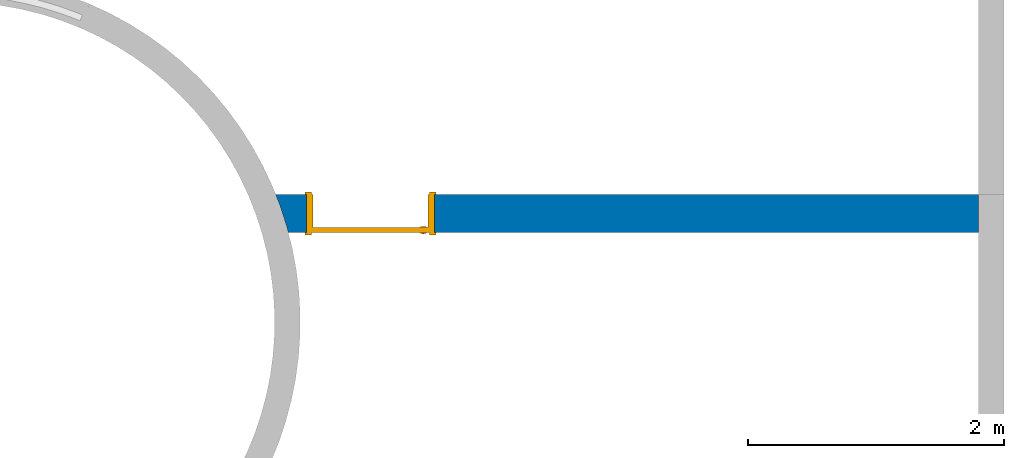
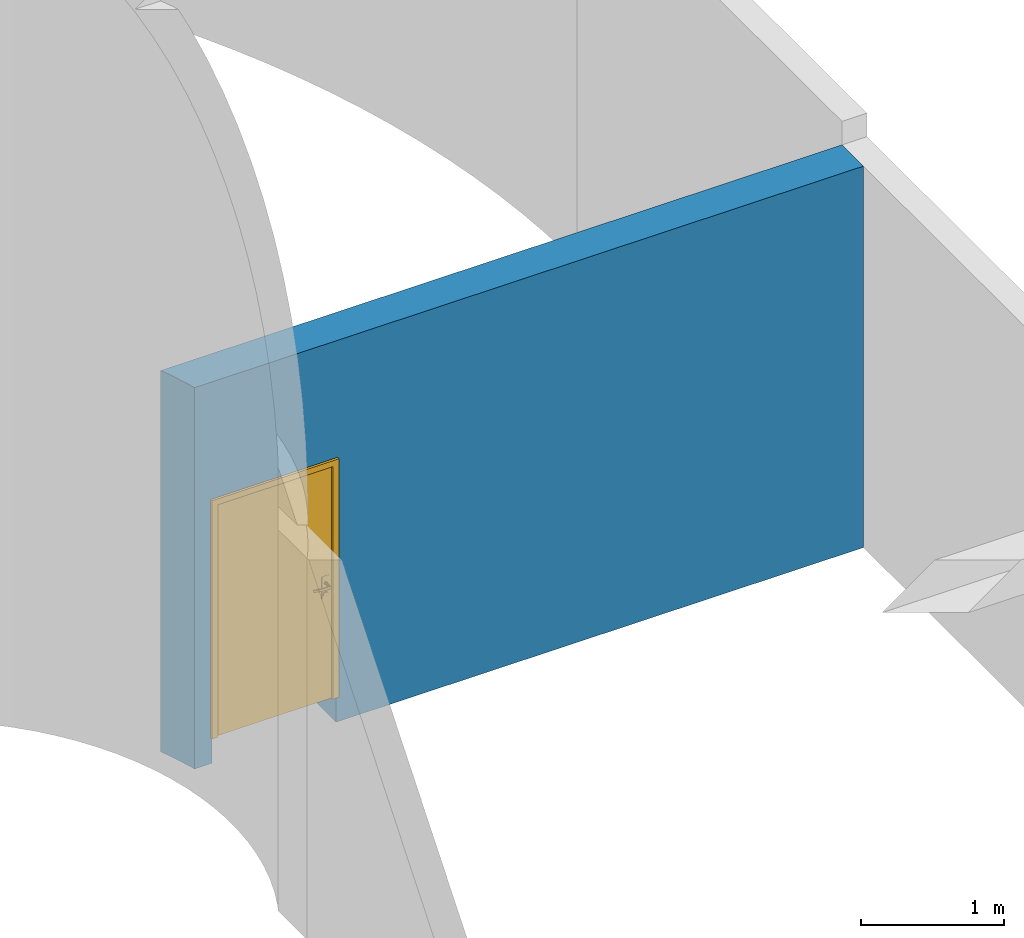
# One storey, part 7 of 8: 1 door, 1 wall, 1 opening.
"""IFC4 building model written with IfcOpenShell, lengths in millimetres."""

from ifc_helpers import new_model, entity, si_unit, converted_unit, derived_unit, direction, frame, origin_with_axes, place, context, subcontext, project, spatial, polygons, material, constituent, constituent_set, type_object, element, fill, save


model = new_model("IFC4")

# Units and contexts
model_context = context("Model", 3, precision=0.01, world=origin_with_axes(), true_north=direction((0.0, 1.0)))
body_context = subcontext(model_context, "Body", "Model", "MODEL_VIEW")
ifc_project = project(units=[si_unit("LENGTHUNIT", "METRE", prefix="MILLI"), si_unit("AREAUNIT", "SQUARE_METRE"), si_unit("VOLUMEUNIT", "CUBIC_METRE"), converted_unit("PLANEANGLEUNIT", "DEGREE", entity("IfcPlaneAngleMeasure", 0.0174532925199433), si_unit("PLANEANGLEUNIT", "RADIAN"), dimensions=[0, 0, 0, 0, 0, 0, 0]), converted_unit("TIMEUNIT", "Year", entity("IfcTimeMeasure", 31557600.0), si_unit("TIMEUNIT", "SECOND"), dimensions=[0, 0, 1, 0, 0, 0, 0]), si_unit("MASSUNIT", "GRAM", prefix="KILO"), si_unit("THERMODYNAMICTEMPERATUREUNIT", "DEGREE_CELSIUS"), si_unit("LUMINOUSINTENSITYUNIT", "LUMEN"), si_unit("ENERGYUNIT", "JOULE", prefix="MEGA"), derived_unit("THERMALCONDUCTANCEUNIT", [(si_unit("POWERUNIT", "WATT"), 1), (si_unit("LENGTHUNIT", "METRE"), -1), (si_unit("THERMODYNAMICTEMPERATUREUNIT", "KELVIN"), -1)]), derived_unit("SPECIFICHEATCAPACITYUNIT", [(si_unit("ENERGYUNIT", "JOULE"), 1), (si_unit("MASSUNIT", "GRAM", prefix="KILO"), -1), (si_unit("THERMODYNAMICTEMPERATUREUNIT", "KELVIN"), -1)]), derived_unit("MASSDENSITYUNIT", [(si_unit("MASSUNIT", "GRAM", prefix="KILO"), 1), (si_unit("VOLUMEUNIT", "CUBIC_METRE"), -1)])], contexts=[model_context])

# Site, building, storey
site_placement = place(None, origin_with_axes())
site = spatial("IfcSite", under=ifc_project, at=site_placement, Name="Exteriér", CompositionType="ELEMENT")
building_placement = place(site_placement, origin_with_axes())
building = spatial("IfcBuilding", under=site, at=building_placement, Name="Univerzitní lezecké centrum", CompositionType="ELEMENT")
storey_placement = place(building_placement, frame((0.0, 0.0, -3350.0), z_axis=(0.0, 0.0, 1.0), x_axis=(1.0, 0.0, 0.0)))
storey = spatial("IfcBuildingStorey", under=building, at=storey_placement, Name="1.PP", CompositionType="ELEMENT", Elevation=-3350.0)

# Wall, opening, door
ifc_material = material(Name="Beton vyztužený - vnitřní svislé kce")
ifc_constituent = constituent(ifc_material, Name="Beton vyztužený - vnitřní svislé kce")
ifc_constituent_set = constituent_set(constituents=[ifc_constituent], Name="!Vnitřní betonová stěna 300 mm")
wall_type = type_object("IfcWallType", Name="!Vnitřní betonová stěna 300 mm 300", PredefinedType="NOTDEFINED")
wall_placement = place(storey_placement, frame((10449.85164885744, 4699.99999999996, -220.0000000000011), z_axis=(0.0, 0.0, 1.0), x_axis=(-1.0, 0.0, 0.0)))
wall = element("IfcWall", 1, at=wall_placement, inside=storey, type_object=wall_type, material=ifc_constituent_set, Name="St04", PredefinedType="NOTDEFINED", context=body_context, shape_type="Tessellation", body=[
    polygons([(5249.739482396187, 299.9999999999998, 0.500000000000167), (5249.739482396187, 0.0, 0.500000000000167), (5249.739482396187, 0.0, 220.0000000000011), (5249.739482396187, 299.9999999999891, 220.0000000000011), (5249.739482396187, 0.0, 0.0), (5249.739482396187, 299.9999999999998, 0.0), (4249.739482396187, 0.0, 0.0), (4249.739482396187, 0.0, 0.500000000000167), (4249.739482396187, 0.0, 220.0000000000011), (4249.739482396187, 0.0, 2240.000000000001), (5249.739482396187, 0.0, 2240.000000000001), (5491.972350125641, 0.0, 0.0), (5491.972350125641, 0.0, 3250.000000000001), (0.0, 0.0, 3250.0), (0.0, 0.0, 0.0), (5249.739482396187, 299.9999999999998, 2240.000000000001), (4249.739482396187, 299.9999999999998, 0.500000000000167), (4249.739482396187, 299.9999999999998, 0.0), (0.0, 299.9999999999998, 0.0), (0.0, 299.9999999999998, 3250.0), (5392.003304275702, 299.9999999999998, 3250.000000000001), (5392.003304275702, 299.9999999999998, 0.0), (4249.739482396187, 299.9999999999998, 2240.000000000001), (4249.739482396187, 299.9999999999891, 220.0000000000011), (5403.0455645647, 256.2435752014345, 0.0), (5455.446021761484, 93.03196804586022, 0.0), (5455.446021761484, 93.03196804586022, 3250.000000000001), (5403.0455645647, 256.2435752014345, 3250.000000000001)], [[[1, 2, 3, 4]], [[5, 2, 1, 6]], [[7, 8, 9, 10, 11, 3, 2, 5, 12, 13, 14, 15]], [[16, 4, 3, 11]], [[17, 18, 19, 20, 21, 22, 6, 1, 4, 16, 23, 24]], [[5, 6, 22, 25, 26, 12]], [[17, 8, 7, 18]], [[8, 17, 24, 9]], [[24, 23, 10, 9]], [[23, 16, 11, 10]], [[12, 26, 27, 13]], [[27, 28, 21, 20, 14, 13]], [[19, 15, 14, 20]], [[18, 7, 15, 19]], [[28, 25, 22, 21]], [[26, 25, 28, 27]]], closed=True),
])
opening_placement = place(wall_placement, frame((4749.739482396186, 0.0, 220.0000000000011), z_axis=(0.0, 0.0, 1.0), x_axis=(1.0, 0.0, 0.0)))
opening = element("IfcOpeningElement", 2, at=opening_placement, cuts=wall, Name="D04", context=body_context, identifier="Reference", shape_type="Tessellation", body=[
    polygons([(500.0, -1.000000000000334, 2020.0), (-500.0, -1.000000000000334, 2020.0), (-500.0, -1.000000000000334, 0.0), (500.0, -1.000000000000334, 0.0), (512.0000000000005, -1.000000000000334, 0.0), (512.0000000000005, -1.000000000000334, 2032.0), (-512.0000000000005, -1.000000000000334, 2032.0), (-512.0000000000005, -1.000000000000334, 0.0), (500.0, 0.0, 0.0), (-500.0, 0.0, 0.0), (-500.0, 299.9999999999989, 0.0), (-500.0, 301.0000000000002, 0.0), (500.0, 301.0000000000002, 0.0), (500.0, 299.9999999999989, 0.0), (512.0000000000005, 0.0, 0.0), (512.0000000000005, 0.0, 2032.0), (-512.0000000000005, 0.0, 2032.0), (-512.0000000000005, 0.0, 0.0), (-500.0, 0.0, 2020.0), (-500.0, 299.9999999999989, 2020.0), (-512.0000000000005, 299.9999999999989, 0.0), (-512.0000000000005, 301.0000000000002, 0.0), (-512.0000000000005, 301.0000000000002, 2032.0), (512.0000000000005, 301.0000000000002, 2032.0), (512.0000000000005, 301.0000000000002, 0.0), (512.0000000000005, 299.9999999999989, 0.0), (500.0, 0.0, 2020.0), (500.0, 299.9999999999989, 2020.0), (512.0000000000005, 299.9999999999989, 2032.0), (-512.0000000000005, 299.9999999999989, 2032.0)], [[[1, 2, 3, 4]], [[3, 2, 1, 4, 5, 6, 7, 8]], [[9, 4, 3, 10, 11, 12, 13, 14]], [[4, 9, 15, 5]], [[15, 16, 6, 5]], [[16, 17, 7, 6]], [[17, 18, 8, 7]], [[10, 3, 8, 18]], [[10, 19, 20, 11]], [[12, 11, 21, 22]], [[13, 12, 22, 23, 24, 25]], [[14, 13, 25, 26]], [[27, 9, 14, 28]], [[27, 19, 10, 18, 17, 16, 15, 9]], [[19, 27, 28, 20]], [[11, 20, 28, 14, 26, 29, 30, 21]], [[21, 30, 23, 22]], [[30, 29, 24, 23]], [[29, 26, 25, 24]]], closed=True),
])
door_type = type_object("IfcDoorType", Name="Dveře 24", OperationType="SINGLE_SWING_RIGHT", PredefinedType="NOTDEFINED")
door_placement = place(opening_placement, frame((-450.0000000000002, 0.0, 0.0), z_axis=(0.0, 0.0, 1.0), x_axis=(1.0, 0.0, 0.0)))
door = element("IfcDoor", 3, at=door_placement, inside=storey, type_object=door_type, Name="D04", OverallHeight=2020.0, OverallWidth=1000.0, PredefinedType="NOTDEFINED", context=body_context, shape_type="Tessellation", body=[
    polygons([(-11.99999999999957, 299.9999999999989, 0.0), (-62.00000000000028, 299.9999999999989, 0.0), (-62.00000000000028, 318.9999999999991, 0.0), (-11.99999999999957, 318.9999999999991, 0.0), (-11.99999999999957, 299.9999999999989, 1982.0), (-62.00000000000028, 299.9999999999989, 2032.0), (-62.00000000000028, 318.9999999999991, 2032.0), (-11.99999999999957, 318.9999999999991, 1982.0)], [[[1, 2, 3, 4]], [[5, 6, 2, 1]], [[2, 6, 7, 3]], [[8, 4, 3, 7]], [[5, 1, 4, 8]], [[6, 5, 8, 7]]], closed=True),
    polygons([(911.9999999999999, 299.9999999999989, 1982.0), (962.0000000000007, 299.9999999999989, 2032.0), (962.0000000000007, 318.9999999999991, 2032.0), (911.9999999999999, 318.9999999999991, 1982.0), (911.9999999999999, 299.9999999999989, 0.0), (962.0000000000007, 299.9999999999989, 0.0), (962.0000000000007, 318.9999999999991, 0.0), (911.9999999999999, 318.9999999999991, 0.0)], [[[1, 2, 3, 4]], [[5, 6, 2, 1]], [[2, 6, 7, 3]], [[8, 4, 3, 7]], [[5, 1, 4, 8]], [[6, 5, 8, 7]]], closed=True),
    polygons([(0.0, 0.0, 1970.0), (0.0, 0.0, 0.0), (0.0, 259.9999999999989, 0.0), (0.0, 259.9999999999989, 1970.0), (-49.99999999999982, 0.0, 1970.0), (-49.99999999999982, 0.0, 0.0), (-49.99999999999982, 299.9999999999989, 0.0), (-11.99999999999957, 299.9999999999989, 0.0), (-11.99999999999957, 259.9999999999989, 0.0), (-11.99999999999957, 259.9999999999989, 1970.0), (-11.99999999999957, 299.9999999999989, 1970.0), (-49.99999999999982, 299.9999999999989, 1970.0)], [[[1, 2, 3, 4]], [[5, 6, 2, 1]], [[7, 8, 9, 3, 2, 6]], [[3, 9, 10, 4]], [[1, 4, 10, 11, 12, 5]], [[5, 12, 7, 6]], [[7, 12, 11, 8]], [[9, 8, 11, 10]]], closed=True),
    polygons([(950.0000000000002, 299.9999999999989, 1970.0), (911.9999999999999, 299.9999999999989, 1970.0), (911.9999999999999, 259.9999999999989, 1970.0), (900.0000000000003, 259.9999999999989, 1970.0), (900.0000000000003, 0.0, 1970.0), (950.0000000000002, 0.0, 1970.0), (950.0000000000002, 299.9999999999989, 0.0), (911.9999999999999, 299.9999999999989, 0.0), (911.9999999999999, 259.9999999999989, 0.0), (900.0000000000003, 259.9999999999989, 0.0), (900.0000000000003, 0.0, 0.0), (950.0000000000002, 0.0, 0.0)], [[[1, 2, 3, 4, 5, 6]], [[1, 7, 8, 2]], [[8, 9, 3, 2]], [[9, 10, 4, 3]], [[11, 5, 4, 10]], [[11, 12, 6, 5]], [[12, 7, 1, 6]], [[11, 10, 9, 8, 7, 12]]], closed=True),
    polygons([(-11.99999999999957, 259.9999999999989, 0.0), (-11.99999999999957, 299.9999999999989, 0.0), (911.9999999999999, 299.9999999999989, 0.0), (911.9999999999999, 259.9999999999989, 0.0), (-11.99999999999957, 259.9999999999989, 1982.0), (-11.99999999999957, 299.9999999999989, 1982.0), (911.9999999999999, 299.9999999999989, 1982.0), (911.9999999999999, 259.9999999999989, 1982.0)], [[[1, 2, 3, 4]], [[5, 6, 2, 1]], [[6, 7, 3, 2]], [[4, 3, 7, 8]], [[5, 1, 4, 8]], [[8, 7, 6, 5]]], closed=True),
    polygons([(-11.99999999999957, -19.00000000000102, 0.0), (-62.00000000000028, -19.00000000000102, 0.0), (-62.00000000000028, 0.0, 0.0), (-11.99999999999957, 0.0, 0.0), (-62.00000000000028, -19.00000000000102, 2032.0), (-11.99999999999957, -19.00000000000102, 1982.0), (-62.00000000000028, 0.0, 2032.0), (-11.99999999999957, 0.0, 1982.0)], [[[1, 2, 3, 4]], [[5, 2, 1, 6]], [[2, 5, 7, 3]], [[4, 3, 7, 8]], [[6, 1, 4, 8]], [[5, 6, 8, 7]]], closed=True),
    polygons([(911.9999999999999, -19.00000000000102, 1982.0), (962.0000000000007, -19.00000000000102, 2032.0), (962.0000000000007, 0.0, 2032.0), (911.9999999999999, 0.0, 1982.0), (962.0000000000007, -19.00000000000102, 0.0), (911.9999999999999, -19.00000000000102, 0.0), (962.0000000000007, 0.0, 0.0), (911.9999999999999, 0.0, 0.0)], [[[1, 2, 3, 4]], [[5, 2, 1, 6]], [[2, 5, 7, 3]], [[4, 3, 7, 8]], [[6, 1, 4, 8]], [[5, 6, 8, 7]]], closed=True),
    polygons([(-62.00000000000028, 318.9999999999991, 2032.0), (-11.99999999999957, 318.9999999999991, 1982.0), (-11.99999999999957, 299.9999999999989, 1982.0), (-62.00000000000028, 299.9999999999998, 2032.0), (962.0000000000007, 318.9999999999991, 2032.0), (911.9999999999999, 318.9999999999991, 1982.0), (911.9999999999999, 299.9999999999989, 1982.0), (962.0000000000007, 299.9999999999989, 2032.0)], [[[1, 2, 3, 4]], [[1, 5, 6, 2]], [[2, 6, 7, 3]], [[4, 3, 7, 8]], [[5, 1, 4, 8]], [[6, 5, 8, 7]]], closed=True),
    polygons([(-62.00000000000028, -19.00000000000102, 2032.0), (-62.00000000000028, 0.0, 2032.0), (-11.99999999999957, 0.0, 1982.0), (-11.99999999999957, -19.00000000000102, 1982.0), (962.0000000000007, -19.00000000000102, 2032.0), (962.0000000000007, 0.0, 2032.0), (911.9999999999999, 0.0, 1982.0), (911.9999999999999, -19.00000000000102, 1982.0)], [[[1, 2, 3, 4]], [[5, 6, 2, 1]], [[2, 6, 7, 3]], [[4, 3, 7, 8]], [[1, 4, 8, 5]], [[8, 7, 6, 5]]], closed=True),
    polygons([(-11.99999999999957, 299.9999999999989, 1982.0), (-11.99999999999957, 299.9999999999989, 1970.0), (-49.99999999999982, 299.9999999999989, 1970.0), (-49.99999999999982, 299.9999999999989, 2020.0), (950.0000000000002, 299.9999999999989, 2020.0), (950.0000000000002, 299.9999999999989, 1970.0), (911.9999999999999, 299.9999999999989, 1970.0), (911.9999999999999, 299.9999999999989, 1982.0), (-11.99999999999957, 259.9999999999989, 1982.0), (-11.99999999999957, 259.9999999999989, 1970.0), (0.0, 259.9999999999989, 1970.0), (0.0, 0.0, 1970.0), (-49.99999999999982, 0.0, 1970.0), (-49.99999999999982, 0.0, 2020.0), (950.0000000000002, 0.0, 2020.0), (950.0000000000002, 0.0, 1970.0), (911.9999999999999, 259.9999999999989, 1970.0), (900.0000000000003, 0.0, 1970.0), (900.0000000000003, 259.9999999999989, 1970.0), (911.9999999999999, 259.9999999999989, 1982.0)], [[[1, 2, 3, 4, 5, 6, 7, 8]], [[2, 1, 9, 10]], [[10, 11, 12, 13, 3, 2]], [[3, 13, 14, 4]], [[4, 14, 15, 5]], [[5, 15, 16, 6]], [[17, 7, 6, 16, 18, 19]], [[8, 7, 17, 20]], [[1, 8, 20, 9]], [[17, 19, 11, 10, 9, 20]], [[11, 19, 18, 12]], [[18, 16, 15, 14, 13, 12]]], closed=True),
    polygons([(9.500000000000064, 259.9999999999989, 1060.0), (9.500000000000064, 256.9999999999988, 1060.0), (66.50000000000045, 256.9999999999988, 1060.0), (66.50000000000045, 259.9999999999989, 1060.0), (9.500000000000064, 259.9999999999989, 870.0000000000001), (9.500000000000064, 256.9999999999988, 870.0000000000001), (66.50000000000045, 256.9999999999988, 870.0000000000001), (66.50000000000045, 259.9999999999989, 870.0000000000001)], [[[1, 2, 3, 4]], [[5, 6, 2, 1]], [[2, 6, 7, 3]], [[4, 3, 7, 8]], [[1, 4, 8, 5]], [[8, 7, 6, 5]]], closed=True),
    polygons([(38.00000000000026, 195.9999999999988, 989.9999999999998), (38.00000000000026, 188.9999999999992, 989.9999999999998), (33.00000000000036, 188.9999999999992, 991.3397459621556), (33.00000000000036, 195.9999999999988, 991.3397459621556), (63.00000000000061, 195.9999999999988, 989.9999999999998), (63.00000000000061, 188.9999999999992, 989.9999999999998), (63.00000000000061, 188.9999999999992, 1010.0), (38.00000000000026, 188.9999999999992, 1010.0), (33.00000000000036, 188.9999999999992, 1008.660254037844), (29.33974596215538, 188.9999999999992, 1005.0), (28.00000000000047, 188.9999999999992, 1000.0), (29.33974596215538, 188.9999999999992, 995.0000000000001), (29.33974596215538, 195.9999999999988, 995.0000000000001), (28.00000000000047, 195.9999999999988, 1000.0), (29.33974596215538, 195.9999999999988, 1005.0), (33.00000000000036, 195.9999999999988, 1008.660254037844), (38.00000000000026, 195.9999999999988, 1010.0), (63.00000000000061, 195.9999999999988, 1010.0)], [[[1, 2, 3, 4]], [[5, 6, 2, 1]], [[2, 6, 7, 8, 9, 10, 11, 12, 3]], [[4, 3, 12, 13]], [[1, 4, 13, 14, 15, 16, 17, 18, 5]], [[18, 7, 6, 5]], [[17, 8, 7, 18]], [[16, 9, 8, 17]], [[15, 10, 9, 16]], [[14, 11, 10, 15]], [[13, 12, 11, 14]]], closed=True),
    polygons([(63.00000000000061, 195.9999999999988, 1010.0), (76.40390947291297, 188.9999999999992, 1009.607300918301), (76.09828287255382, 195.9999999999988, 1009.607300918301), (63.00000000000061, 188.9999999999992, 1010.0), (103.1097165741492, 191.3364553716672, 1008.821902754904), (76.09828287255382, 195.9999999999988, 990.3926990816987), (63.00000000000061, 195.9999999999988, 989.9999999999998), (63.00000000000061, 188.9999999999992, 989.9999999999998), (76.40390947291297, 188.9999999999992, 990.3926990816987), (103.1097165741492, 191.3364553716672, 991.1780972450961), (102.1951627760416, 198.2831811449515, 1008.821902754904), (102.1951627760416, 198.2831811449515, 991.1780972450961), (129.5102645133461, 195.9915842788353, 991.9634954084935), (129.5102645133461, 195.9915842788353, 1008.036504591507), (127.993743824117, 202.8321670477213, 1008.036504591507), (127.993743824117, 202.8321670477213, 991.9634954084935), (155.4046291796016, 202.9299583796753, 992.7488935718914), (155.4046291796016, 202.9299583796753, 1007.251106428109), (153.2976832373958, 209.6123371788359, 1007.251106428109), (153.2976832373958, 209.6123371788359, 992.7488935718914), (163.4612043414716, 205.8623119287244, 992.9999999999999), (163.4612043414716, 205.8623119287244, 1007.0), (161.1705579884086, 212.4778292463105, 1007.0), (161.1705579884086, 212.4778292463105, 992.9999999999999)], [[[1, 2, 3]], [[1, 4, 2]], [[3, 2, 5]], [[1, 3, 6, 7]], [[4, 8, 9, 2]], [[2, 9, 10, 5]], [[3, 5, 11]], [[3, 11, 12, 6]], [[6, 8, 7]], [[6, 9, 8]], [[12, 10, 9]], [[5, 10, 13, 14]], [[11, 5, 14]], [[11, 15, 16, 12]], [[12, 9, 6]], [[16, 10, 12]], [[16, 13, 10]], [[14, 13, 17, 18]], [[11, 14, 15]], [[15, 19, 20, 16]], [[20, 13, 16]], [[20, 17, 13]], [[18, 17, 21, 22]], [[15, 14, 18]], [[15, 18, 19]], [[19, 23, 24, 20]], [[24, 17, 20]], [[24, 21, 17]], [[23, 22, 21, 24]], [[19, 18, 22]], [[19, 22, 23]]], closed=False),
    polygons([(48.39230484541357, 246.999999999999, 994.0000000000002), (49.25833024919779, 256.9999999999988, 993.5), (51.00000000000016, 256.9999999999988, 1000.0), (49.99999999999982, 246.999999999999, 1000.0), (44.00000000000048, 246.999999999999, 989.6076951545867), (44.50000000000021, 256.9999999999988, 988.741669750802), (38.00000000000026, 256.9999999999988, 987.0000000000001), (31.50000000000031, 256.9999999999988, 988.741669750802), (26.74166975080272, 256.9999999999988, 993.5), (25.00000000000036, 256.9999999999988, 1000.0), (26.74166975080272, 256.9999999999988, 1006.5), (31.50000000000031, 256.9999999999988, 1011.258330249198), (38.00000000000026, 256.9999999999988, 1013.0), (44.50000000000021, 256.9999999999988, 1011.258330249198), (49.25833024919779, 256.9999999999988, 1006.5), (48.39230484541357, 246.999999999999, 1006.0), (44.00000000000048, 246.999999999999, 1010.392304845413), (38.00000000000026, 246.999999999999, 1012.0), (32.00000000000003, 246.999999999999, 1010.392304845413), (27.60769515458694, 246.999999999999, 1006.0), (25.9999999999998, 246.999999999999, 1000.0), (27.60769515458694, 246.999999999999, 994.0000000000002), (32.00000000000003, 246.999999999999, 989.6076951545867), (38.00000000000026, 246.999999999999, 988.0)], [[[1, 2, 3, 4]], [[5, 6, 2, 1]], [[3, 2, 6, 7, 8, 9, 10, 11, 12, 13, 14, 15]], [[4, 3, 15, 16]], [[4, 16, 17, 18, 19, 20, 21, 22, 23, 24, 5, 1]], [[24, 7, 6, 5]], [[23, 8, 7, 24]], [[22, 9, 8, 23]], [[21, 10, 9, 22]], [[20, 11, 10, 21]], [[19, 12, 11, 20]], [[18, 13, 12, 19]], [[17, 14, 13, 18]], [[16, 15, 14, 17]]], closed=True),
    polygons([(55.32050807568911, 252.9999999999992, 895.0), (57.05255888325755, 256.9999999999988, 894.0000000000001), (60.0000000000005, 256.9999999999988, 904.9999999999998), (57.99999999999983, 252.9999999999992, 904.9999999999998), (48.00000000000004, 252.9999999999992, 887.6794919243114), (49.00000000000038, 256.9999999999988, 885.9474411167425), (38.00000000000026, 256.9999999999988, 883.0), (27.00000000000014, 256.9999999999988, 885.9474411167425), (18.94744111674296, 256.9999999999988, 894.0000000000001), (16.00000000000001, 256.9999999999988, 904.9999999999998), (18.94744111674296, 256.9999999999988, 915.9999999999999), (27.00000000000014, 256.9999999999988, 924.0525588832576), (38.00000000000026, 256.9999999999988, 927.0), (49.00000000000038, 256.9999999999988, 924.0525588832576), (57.05255888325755, 256.9999999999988, 915.9999999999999), (55.32050807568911, 252.9999999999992, 915.0), (48.00000000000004, 252.9999999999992, 922.3205080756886), (38.00000000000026, 252.9999999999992, 925.0000000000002), (28.00000000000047, 252.9999999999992, 922.3205080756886), (20.6794919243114, 252.9999999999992, 915.0), (17.99999999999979, 252.9999999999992, 904.9999999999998), (20.6794919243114, 252.9999999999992, 895.0), (28.00000000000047, 252.9999999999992, 887.6794919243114), (38.00000000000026, 252.9999999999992, 885.0000000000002)], [[[1, 2, 3, 4]], [[5, 6, 2, 1]], [[3, 2, 6, 7, 8, 9, 10, 11, 12, 13, 14, 15]], [[4, 3, 15, 16]], [[4, 16, 17, 18, 19, 20, 21, 22, 23, 24, 5, 1]], [[24, 7, 6, 5]], [[23, 8, 7, 24]], [[22, 9, 8, 23]], [[21, 10, 9, 22]], [[20, 11, 10, 21]], [[19, 12, 11, 20]], [[18, 13, 12, 19]], [[17, 14, 13, 18]], [[16, 15, 14, 17]]], closed=True),
    polygons([(42.94974746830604, 250.9999999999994, 909.0502525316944), (43.65685424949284, 252.9999999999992, 908.3431457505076), (46.00000000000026, 252.9999999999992, 914.0000000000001), (44.99999999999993, 250.9999999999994, 914.0000000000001), (38.00000000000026, 250.9999999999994, 907.0), (38.00000000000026, 252.9999999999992, 906.0000000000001), (32.34314575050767, 252.9999999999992, 908.3431457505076), (30.00000000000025, 252.9999999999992, 914.0000000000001), (32.34314575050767, 252.9999999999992, 919.6568542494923), (38.00000000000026, 252.9999999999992, 922.0000000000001), (43.65685424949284, 252.9999999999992, 919.6568542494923), (42.94974746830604, 250.9999999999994, 918.949747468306), (38.00000000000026, 250.9999999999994, 920.9999999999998), (33.05025253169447, 250.9999999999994, 918.949747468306), (31.00000000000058, 250.9999999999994, 914.0000000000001), (33.05025253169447, 250.9999999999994, 909.0502525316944)], [[[1, 2, 3, 4]], [[5, 6, 2, 1]], [[3, 2, 6, 7, 8, 9, 10, 11]], [[4, 3, 11, 12]], [[4, 12, 13, 14, 15, 16, 5, 1]], [[16, 7, 6, 5]], [[15, 8, 7, 16]], [[14, 9, 8, 15]], [[13, 10, 9, 14]], [[12, 11, 10, 13]]], closed=True),
    polygons([(38.00000000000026, 246.999999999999, 1010.0), (38.00000000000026, 195.9999999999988, 1010.0), (43.00000000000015, 195.9999999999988, 1008.660254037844), (43.00000000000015, 246.999999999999, 1008.660254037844), (33.00000000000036, 246.999999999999, 1008.660254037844), (33.00000000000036, 195.9999999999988, 1008.660254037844), (29.33974596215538, 195.9999999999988, 1005.0), (28.00000000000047, 195.9999999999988, 1000.0), (29.33974596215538, 195.9999999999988, 995.0000000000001), (33.00000000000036, 195.9999999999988, 991.3397459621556), (38.00000000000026, 195.9999999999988, 989.9999999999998), (43.00000000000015, 195.9999999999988, 991.3397459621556), (46.66025403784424, 195.9999999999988, 995.0000000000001), (48.00000000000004, 195.9999999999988, 1000.0), (46.66025403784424, 195.9999999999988, 1005.0), (46.66025403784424, 246.999999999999, 1005.0), (48.00000000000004, 246.999999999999, 1000.0), (46.66025403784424, 246.999999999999, 995.0000000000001), (43.00000000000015, 246.999999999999, 991.3397459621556), (38.00000000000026, 246.999999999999, 989.9999999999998), (33.00000000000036, 246.999999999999, 991.3397459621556), (29.33974596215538, 246.999999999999, 995.0000000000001), (28.00000000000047, 246.999999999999, 1000.0), (29.33974596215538, 246.999999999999, 1005.0)], [[[1, 2, 3, 4]], [[5, 6, 2, 1]], [[2, 6, 7, 8, 9, 10, 11, 12, 13, 14, 15, 3]], [[4, 3, 15, 16]], [[1, 4, 16, 17, 18, 19, 20, 21, 22, 23, 24, 5]], [[24, 7, 6, 5]], [[23, 8, 7, 24]], [[22, 9, 8, 23]], [[21, 10, 9, 22]], [[20, 11, 10, 21]], [[19, 12, 11, 20]], [[18, 13, 12, 19]], [[17, 14, 13, 18]], [[16, 15, 14, 17]]], closed=True),
    polygons([(9.500000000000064, 299.9999999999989, 1060.0), (66.50000000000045, 299.9999999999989, 1060.0), (66.50000000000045, 302.999999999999, 1060.0), (9.500000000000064, 302.999999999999, 1060.0), (9.500000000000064, 299.9999999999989, 870.0000000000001), (66.50000000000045, 299.9999999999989, 870.0000000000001), (66.50000000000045, 302.999999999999, 870.0000000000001), (9.500000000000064, 302.999999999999, 870.0000000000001)], [[[1, 2, 3, 4]], [[1, 5, 6, 2]], [[2, 6, 7, 3]], [[4, 3, 7, 8]], [[5, 1, 4, 8]], [[6, 5, 8, 7]]], closed=True),
    polygons([(38.00000000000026, 363.999999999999, 989.9999999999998), (33.00000000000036, 363.999999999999, 991.3397459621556), (33.00000000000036, 370.9999999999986, 991.3397459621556), (38.00000000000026, 370.9999999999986, 989.9999999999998), (63.00000000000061, 363.999999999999, 989.9999999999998), (63.00000000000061, 363.999999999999, 1010.0), (38.00000000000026, 363.999999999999, 1010.0), (33.00000000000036, 363.999999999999, 1008.660254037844), (29.33974596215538, 363.999999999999, 1005.0), (28.00000000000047, 363.999999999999, 1000.0), (29.33974596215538, 363.999999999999, 995.0000000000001), (29.33974596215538, 370.9999999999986, 995.0000000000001), (28.00000000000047, 370.9999999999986, 1000.0), (29.33974596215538, 370.9999999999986, 1005.0), (33.00000000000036, 370.9999999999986, 1008.660254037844), (38.00000000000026, 370.9999999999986, 1010.0), (63.00000000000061, 370.9999999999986, 1010.0), (63.00000000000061, 370.9999999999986, 989.9999999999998)], [[[1, 2, 3, 4]], [[1, 5, 6, 7, 8, 9, 10, 11, 2]], [[2, 11, 12, 3]], [[4, 3, 12, 13, 14, 15, 16, 17, 18]], [[5, 1, 4, 18]], [[6, 5, 18, 17]], [[7, 6, 17, 16]], [[8, 7, 16, 15]], [[9, 8, 15, 14]], [[10, 9, 14, 13]], [[11, 10, 13, 12]]], closed=True),
    polygons([(63.00000000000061, 363.999999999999, 1010.0), (76.09828287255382, 363.999999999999, 1009.607300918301), (76.40390947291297, 370.9999999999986, 1009.607300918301), (63.00000000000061, 363.999999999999, 989.9999999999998), (76.09828287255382, 363.999999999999, 990.3926990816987), (103.1097165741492, 368.6635446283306, 1008.821902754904), (63.00000000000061, 370.9999999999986, 1010.0), (63.00000000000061, 370.9999999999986, 989.9999999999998), (102.1951627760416, 361.7168188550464, 991.1780972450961), (102.1951627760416, 361.7168188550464, 1008.821902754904), (103.1097165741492, 368.6635446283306, 991.1780972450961), (76.40390947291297, 370.9999999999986, 990.3926990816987), (127.993743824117, 357.1678329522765, 991.9634954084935), (127.993743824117, 357.1678329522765, 1008.036504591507), (129.5102645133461, 364.0084157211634, 1008.036504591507), (129.5102645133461, 364.0084157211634, 991.9634954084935), (153.2976832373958, 350.3876628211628, 992.7488935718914), (153.2976832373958, 350.3876628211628, 1007.251106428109), (155.4046291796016, 357.0700416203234, 1007.251106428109), (155.4046291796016, 357.0700416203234, 992.7488935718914), (161.1705579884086, 347.5221707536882, 992.9999999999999), (161.1705579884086, 347.5221707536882, 1007.0), (163.4612043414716, 354.1376880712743, 1007.0), (163.4612043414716, 354.1376880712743, 992.9999999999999)], [[[1, 2, 3]], [[1, 4, 5, 2]], [[2, 6, 3]], [[1, 3, 7]], [[5, 4, 8]], [[2, 5, 9, 10]], [[2, 10, 6]], [[3, 6, 11, 12]], [[7, 3, 12, 8]], [[5, 8, 12]], [[9, 5, 12]], [[10, 9, 13, 14]], [[10, 15, 6]], [[6, 15, 16, 11]], [[9, 12, 11]], [[13, 9, 11]], [[14, 13, 17, 18]], [[10, 14, 15]], [[15, 19, 20, 16]], [[13, 11, 16]], [[17, 13, 16]], [[18, 17, 21, 22]], [[14, 18, 19]], [[14, 19, 15]], [[19, 23, 24, 20]], [[17, 16, 20]], [[21, 17, 20]], [[22, 21, 24, 23]], [[18, 22, 23]], [[18, 23, 19]], [[21, 20, 24]]], closed=False),
    polygons([(48.39230484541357, 312.9999999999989, 994.0000000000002), (49.99999999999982, 312.9999999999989, 1000.0), (51.00000000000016, 302.999999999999, 1000.0), (49.25833024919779, 302.999999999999, 993.5), (44.00000000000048, 312.9999999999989, 989.6076951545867), (38.00000000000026, 312.9999999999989, 988.0), (32.00000000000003, 312.9999999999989, 989.6076951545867), (27.60769515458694, 312.9999999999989, 994.0000000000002), (25.9999999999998, 312.9999999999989, 1000.0), (27.60769515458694, 312.9999999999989, 1006.0), (32.00000000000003, 312.9999999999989, 1010.392304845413), (38.00000000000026, 312.9999999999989, 1012.0), (44.00000000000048, 312.9999999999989, 1010.392304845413), (48.39230484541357, 312.9999999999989, 1006.0), (49.25833024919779, 302.999999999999, 1006.5), (44.50000000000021, 302.999999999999, 1011.258330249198), (38.00000000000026, 302.999999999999, 1013.0), (31.50000000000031, 302.999999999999, 1011.258330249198), (26.74166975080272, 302.999999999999, 1006.5), (25.00000000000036, 302.999999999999, 1000.0), (26.74166975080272, 302.999999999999, 993.5), (31.50000000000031, 302.999999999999, 988.741669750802), (38.00000000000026, 302.999999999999, 987.0000000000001), (44.50000000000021, 302.999999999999, 988.741669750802)], [[[1, 2, 3, 4]], [[2, 1, 5, 6, 7, 8, 9, 10, 11, 12, 13, 14]], [[2, 14, 15, 3]], [[3, 15, 16, 17, 18, 19, 20, 21, 22, 23, 24, 4]], [[5, 1, 4, 24]], [[6, 5, 24, 23]], [[7, 6, 23, 22]], [[8, 7, 22, 21]], [[9, 8, 21, 20]], [[10, 9, 20, 19]], [[11, 10, 19, 18]], [[12, 11, 18, 17]], [[13, 12, 17, 16]], [[14, 13, 16, 15]]], closed=True),
    polygons([(55.32050807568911, 306.9999999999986, 895.0), (57.99999999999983, 306.9999999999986, 904.9999999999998), (60.0000000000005, 302.999999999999, 904.9999999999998), (57.05255888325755, 302.999999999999, 894.0000000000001), (48.00000000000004, 306.9999999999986, 887.6794919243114), (38.00000000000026, 306.9999999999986, 885.0000000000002), (28.00000000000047, 306.9999999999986, 887.6794919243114), (20.6794919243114, 306.9999999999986, 895.0), (17.99999999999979, 306.9999999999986, 904.9999999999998), (20.6794919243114, 306.9999999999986, 915.0), (28.00000000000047, 306.9999999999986, 922.3205080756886), (38.00000000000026, 306.9999999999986, 925.0000000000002), (48.00000000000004, 306.9999999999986, 922.3205080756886), (55.32050807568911, 306.9999999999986, 915.0), (57.05255888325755, 302.999999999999, 915.9999999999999), (49.00000000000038, 302.999999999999, 924.0525588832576), (38.00000000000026, 302.999999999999, 927.0), (27.00000000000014, 302.999999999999, 924.0525588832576), (18.94744111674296, 302.999999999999, 915.9999999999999), (16.00000000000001, 302.999999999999, 904.9999999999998), (18.94744111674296, 302.999999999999, 894.0000000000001), (27.00000000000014, 302.999999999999, 885.9474411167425), (38.00000000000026, 302.999999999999, 883.0), (49.00000000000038, 302.999999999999, 885.9474411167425)], [[[1, 2, 3, 4]], [[2, 1, 5, 6, 7, 8, 9, 10, 11, 12, 13, 14]], [[2, 14, 15, 3]], [[3, 15, 16, 17, 18, 19, 20, 21, 22, 23, 24, 4]], [[5, 1, 4, 24]], [[6, 5, 24, 23]], [[7, 6, 23, 22]], [[8, 7, 22, 21]], [[9, 8, 21, 20]], [[10, 9, 20, 19]], [[11, 10, 19, 18]], [[12, 11, 18, 17]], [[13, 12, 17, 16]], [[14, 13, 16, 15]]], closed=True),
    polygons([(42.94974746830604, 308.9999999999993, 909.0502525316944), (44.99999999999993, 308.9999999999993, 914.0000000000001), (46.00000000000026, 306.9999999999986, 914.0000000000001), (43.65685424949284, 306.9999999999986, 908.3431457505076), (38.00000000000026, 308.9999999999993, 907.0), (33.05025253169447, 308.9999999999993, 909.0502525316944), (31.00000000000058, 308.9999999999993, 914.0000000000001), (33.05025253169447, 308.9999999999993, 918.949747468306), (38.00000000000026, 308.9999999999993, 920.9999999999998), (42.94974746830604, 308.9999999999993, 918.949747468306), (43.65685424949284, 306.9999999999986, 919.6568542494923), (38.00000000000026, 306.9999999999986, 922.0000000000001), (32.34314575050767, 306.9999999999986, 919.6568542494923), (30.00000000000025, 306.9999999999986, 914.0000000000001), (32.34314575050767, 306.9999999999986, 908.3431457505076), (38.00000000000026, 306.9999999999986, 906.0000000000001)], [[[1, 2, 3, 4]], [[2, 1, 5, 6, 7, 8, 9, 10]], [[2, 10, 11, 3]], [[3, 11, 12, 13, 14, 15, 16, 4]], [[5, 1, 4, 16]], [[6, 5, 16, 15]], [[7, 6, 15, 14]], [[8, 7, 14, 13]], [[9, 8, 13, 12]], [[10, 9, 12, 11]]], closed=True),
    polygons([(38.00000000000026, 312.9999999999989, 1010.0), (43.00000000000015, 312.9999999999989, 1008.660254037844), (43.00000000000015, 363.999999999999, 1008.660254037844), (38.00000000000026, 363.999999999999, 1010.0), (33.00000000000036, 312.9999999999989, 1008.660254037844), (29.33974596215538, 312.9999999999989, 1005.0), (28.00000000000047, 312.9999999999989, 1000.0), (29.33974596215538, 312.9999999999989, 995.0000000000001), (33.00000000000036, 312.9999999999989, 991.3397459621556), (38.00000000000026, 312.9999999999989, 989.9999999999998), (43.00000000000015, 312.9999999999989, 991.3397459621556), (46.66025403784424, 312.9999999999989, 995.0000000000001), (48.00000000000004, 312.9999999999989, 1000.0), (46.66025403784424, 312.9999999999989, 1005.0), (46.66025403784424, 363.999999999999, 1005.0), (48.00000000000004, 363.999999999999, 1000.0), (46.66025403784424, 363.999999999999, 995.0000000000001), (43.00000000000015, 363.999999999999, 991.3397459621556), (38.00000000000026, 363.999999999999, 989.9999999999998), (33.00000000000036, 363.999999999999, 991.3397459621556), (29.33974596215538, 363.999999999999, 995.0000000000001), (28.00000000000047, 363.999999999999, 1000.0), (29.33974596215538, 363.999999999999, 1005.0), (33.00000000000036, 363.999999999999, 1008.660254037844)], [[[1, 2, 3, 4]], [[1, 5, 6, 7, 8, 9, 10, 11, 12, 13, 14, 2]], [[2, 14, 15, 3]], [[4, 3, 15, 16, 17, 18, 19, 20, 21, 22, 23, 24]], [[5, 1, 4, 24]], [[6, 5, 24, 23]], [[7, 6, 23, 22]], [[8, 7, 22, 21]], [[9, 8, 21, 20]], [[10, 9, 20, 19]], [[11, 10, 19, 18]], [[12, 11, 18, 17]], [[13, 12, 17, 16]], [[14, 13, 16, 15]]], closed=True),
])
fill(opening, door)

save(model, "model.ifc")
